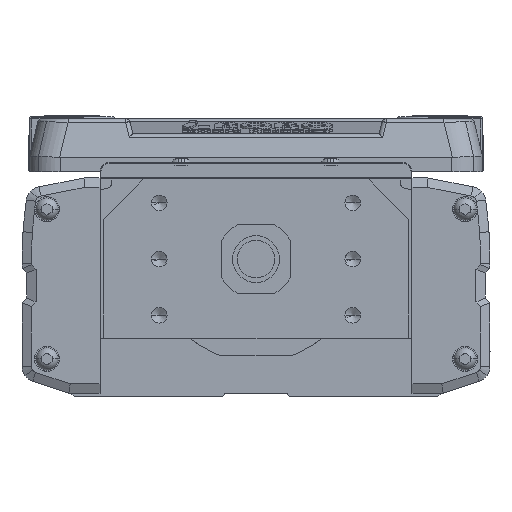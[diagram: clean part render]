
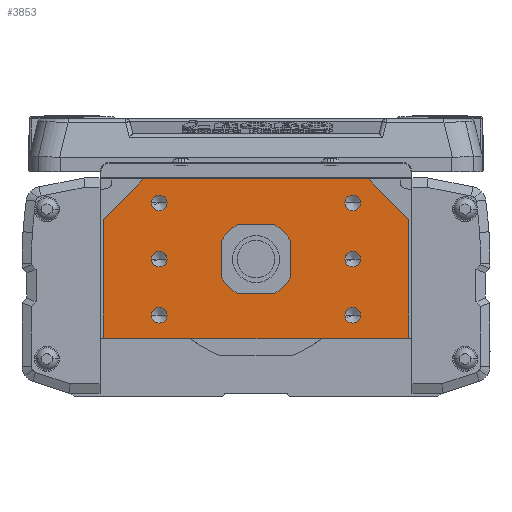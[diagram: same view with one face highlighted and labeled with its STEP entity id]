
A CAD part, left-side view. The second image highlights one B-rep face of the part: STEP entity #3853.
In plain terms, the highlighted planar face has unit normal (-1, 0, 0).
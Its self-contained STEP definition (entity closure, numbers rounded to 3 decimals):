
#3853=ADVANCED_FACE('',(#8742,#8743,#8744,#8745,#8746,#8747,#8748,#8749),#8750,.F.);
#8742=FACE_OUTER_BOUND('',#15345,.T.);
#8743=FACE_BOUND('',#15346,.T.);
#8744=FACE_BOUND('',#15347,.T.);
#8745=FACE_BOUND('',#15348,.T.);
#8746=FACE_BOUND('',#15349,.T.);
#8747=FACE_BOUND('',#15350,.T.);
#8748=FACE_BOUND('',#15351,.T.);
#8749=FACE_BOUND('',#15352,.T.);
#8750=PLANE('',#15353);
#15345=EDGE_LOOP('',(#27181,#27182,#27183,#27184,#27185,#27186,#27187,#27188));
#15346=EDGE_LOOP('',(#27189,#27190));
#15347=EDGE_LOOP('',(#27191,#27192));
#15348=EDGE_LOOP('',(#27193,#27194));
#15349=EDGE_LOOP('',(#27195,#27196));
#15350=EDGE_LOOP('',(#27197,#27198));
#15351=EDGE_LOOP('',(#27199,#27200));
#15352=EDGE_LOOP('',(#27201,#27202));
#15353=AXIS2_PLACEMENT_3D('',#27203,#27204,#27205);
#27181=ORIENTED_EDGE('',*,*,#38477,.F.);
#27182=ORIENTED_EDGE('',*,*,#38784,.F.);
#27183=ORIENTED_EDGE('',*,*,#40428,.F.);
#27184=ORIENTED_EDGE('',*,*,#39063,.F.);
#27185=ORIENTED_EDGE('',*,*,#40892,.F.);
#27186=ORIENTED_EDGE('',*,*,#40893,.F.);
#27187=ORIENTED_EDGE('',*,*,#40894,.F.);
#27188=ORIENTED_EDGE('',*,*,#40895,.F.);
#27189=ORIENTED_EDGE('',*,*,#40896,.T.);
#27190=ORIENTED_EDGE('',*,*,#40897,.T.);
#27191=ORIENTED_EDGE('',*,*,#40898,.T.);
#27192=ORIENTED_EDGE('',*,*,#38018,.T.);
#27193=ORIENTED_EDGE('',*,*,#40899,.T.);
#27194=ORIENTED_EDGE('',*,*,#40900,.T.);
#27195=ORIENTED_EDGE('',*,*,#40901,.T.);
#27196=ORIENTED_EDGE('',*,*,#40902,.T.);
#27197=ORIENTED_EDGE('',*,*,#40903,.T.);
#27198=ORIENTED_EDGE('',*,*,#39088,.T.);
#27199=ORIENTED_EDGE('',*,*,#40904,.T.);
#27200=ORIENTED_EDGE('',*,*,#38816,.T.);
#27201=ORIENTED_EDGE('',*,*,#40905,.F.);
#27202=ORIENTED_EDGE('',*,*,#40906,.F.);
#27203=CARTESIAN_POINT('',(0.,0.275,-2.548));
#27204=DIRECTION('',(1.0,0.,0.));
#27205=DIRECTION('',(0.,1.0,0.));
#38018=EDGE_CURVE('',#45750,#45748,#45751,.T.);
#38477=EDGE_CURVE('',#46549,#46550,#46551,.T.);
#38784=EDGE_CURVE('',#47054,#46549,#47056,.T.);
#38816=EDGE_CURVE('',#47102,#47100,#47103,.T.);
#39063=EDGE_CURVE('',#47490,#47492,#47493,.T.);
#39088=EDGE_CURVE('',#47530,#47528,#47531,.T.);
#40428=EDGE_CURVE('',#47492,#47054,#49583,.T.);
#40892=EDGE_CURVE('',#50237,#47490,#50238,.T.);
#40893=EDGE_CURVE('',#50239,#50237,#50240,.T.);
#40894=EDGE_CURVE('',#50241,#50239,#50242,.T.);
#40895=EDGE_CURVE('',#46550,#50241,#50243,.T.);
#40896=EDGE_CURVE('',#50244,#50245,#50246,.T.);
#40897=EDGE_CURVE('',#50245,#50244,#50247,.T.);
#40898=EDGE_CURVE('',#45748,#45750,#50248,.T.);
#40899=EDGE_CURVE('',#50249,#50250,#50251,.T.);
#40900=EDGE_CURVE('',#50250,#50249,#50252,.T.);
#40901=EDGE_CURVE('',#50253,#50254,#50255,.T.);
#40902=EDGE_CURVE('',#50254,#50253,#50256,.T.);
#40903=EDGE_CURVE('',#47528,#47530,#50257,.T.);
#40904=EDGE_CURVE('',#47100,#47102,#50258,.T.);
#40905=EDGE_CURVE('',#50259,#50260,#50261,.F.);
#40906=EDGE_CURVE('',#50260,#50259,#50262,.F.);
#45748=VERTEX_POINT('',#56510);
#45750=VERTEX_POINT('',#56513);
#45751=CIRCLE('',#56514,2.5);
#46549=VERTEX_POINT('',#57582);
#46550=VERTEX_POINT('',#57583);
#46551=LINE('',#57584,#57585);
#47054=VERTEX_POINT('',#58572);
#47056=LINE('',#58575,#58576);
#47100=VERTEX_POINT('',#58634);
#47102=VERTEX_POINT('',#58637);
#47103=CIRCLE('',#58638,2.5);
#47490=VERTEX_POINT('',#59157);
#47492=VERTEX_POINT('',#59160);
#47493=LINE('',#59161,#59162);
#47528=VERTEX_POINT('',#59207);
#47530=VERTEX_POINT('',#59210);
#47531=CIRCLE('',#59211,2.5);
#49583=LINE('',#61984,#61985);
#50237=VERTEX_POINT('',#62913);
#50238=LINE('',#62914,#62915);
#50239=VERTEX_POINT('',#62916);
#50240=LINE('',#62917,#62918);
#50241=VERTEX_POINT('',#62919);
#50242=LINE('',#62920,#62921);
#50243=LINE('',#62922,#62923);
#50244=VERTEX_POINT('',#62924);
#50245=VERTEX_POINT('',#62925);
#50246=CIRCLE('',#62926,2.5);
#50247=CIRCLE('',#62927,2.5);
#50248=CIRCLE('',#62928,2.5);
#50249=VERTEX_POINT('',#62929);
#50250=VERTEX_POINT('',#62930);
#50251=CIRCLE('',#62931,2.5);
#50252=CIRCLE('',#62932,2.5);
#50253=VERTEX_POINT('',#62933);
#50254=VERTEX_POINT('',#62934);
#50255=CIRCLE('',#62935,2.5);
#50256=CIRCLE('',#62936,2.5);
#50257=CIRCLE('',#62937,2.5);
#50258=CIRCLE('',#62938,2.5);
#50259=VERTEX_POINT('',#62939);
#50260=VERTEX_POINT('',#62940);
#50261=CIRCLE('',#62941,7.5);
#50262=CIRCLE('',#62942,7.5);
#56510=CARTESIAN_POINT('',(0.,-33.5,-18.));
#56513=CARTESIAN_POINT('',(0.,-28.5,-18.));
#56514=AXIS2_PLACEMENT_3D('',#68892,#68893,#68894);
#57582=CARTESIAN_POINT('',(0.,49.,12.7));
#57583=CARTESIAN_POINT('',(0.,36.,25.7));
#57584=CARTESIAN_POINT('',(0.,37.381,24.319));
#57585=VECTOR('',#69591,10.);
#58572=CARTESIAN_POINT('',(0.,49.,-25.));
#58575=CARTESIAN_POINT('',(0.,49.,-25.));
#58576=VECTOR('',#69967,10.0);
#58634=CARTESIAN_POINT('',(0.,-33.5,0.));
#58637=CARTESIAN_POINT('',(0.,-28.5,0.));
#58638=AXIS2_PLACEMENT_3D('',#70002,#70003,#70004);
#59157=CARTESIAN_POINT('',(0.,-48.5,-25.5));
#59160=CARTESIAN_POINT('',(0.,48.5,-25.5));
#59161=CARTESIAN_POINT('',(0.,0.,-25.5));
#59162=VECTOR('',#70313,10.0);
#59207=CARTESIAN_POINT('',(0.,33.5,0.));
#59210=CARTESIAN_POINT('',(0.,28.5,0.));
#59211=AXIS2_PLACEMENT_3D('',#70343,#70344,#70345);
#61984=CARTESIAN_POINT('',(0.,48.5,-25.5));
#61985=VECTOR('',#72187,10.0);
#62913=CARTESIAN_POINT('',(0.,-49.,-25.));
#62914=CARTESIAN_POINT('',(0.,-49.,-25.));
#62915=VECTOR('',#72746,10.0);
#62916=CARTESIAN_POINT('',(0.,-49.,12.7));
#62917=CARTESIAN_POINT('',(0.,-49.,-14.));
#62918=VECTOR('',#72747,10.0);
#62919=CARTESIAN_POINT('',(0.,-36.,25.7));
#62920=CARTESIAN_POINT('',(0.,-37.243,24.457));
#62921=VECTOR('',#72748,10.0);
#62922=CARTESIAN_POINT('',(0.,34.5,25.7));
#62923=VECTOR('',#72749,10.0);
#62924=CARTESIAN_POINT('',(0.,33.5,-18.));
#62925=CARTESIAN_POINT('',(0.,28.5,-18.));
#62926=AXIS2_PLACEMENT_3D('',#72750,#72751,#72752);
#62927=AXIS2_PLACEMENT_3D('',#72753,#72754,#72755);
#62928=AXIS2_PLACEMENT_3D('',#72756,#72757,#72758);
#62929=CARTESIAN_POINT('',(0.,33.5,18.));
#62930=CARTESIAN_POINT('',(0.,28.5,18.));
#62931=AXIS2_PLACEMENT_3D('',#72759,#72760,#72761);
#62932=AXIS2_PLACEMENT_3D('',#72762,#72763,#72764);
#62933=CARTESIAN_POINT('',(0.,-33.5,18.));
#62934=CARTESIAN_POINT('',(0.,-28.5,18.));
#62935=AXIS2_PLACEMENT_3D('',#72765,#72766,#72767);
#62936=AXIS2_PLACEMENT_3D('',#72768,#72769,#72770);
#62937=AXIS2_PLACEMENT_3D('',#72771,#72772,#72773);
#62938=AXIS2_PLACEMENT_3D('',#72774,#72775,#72776);
#62939=CARTESIAN_POINT('',(0.,7.5,0.));
#62940=CARTESIAN_POINT('',(0.,-7.5,0.));
#62941=AXIS2_PLACEMENT_3D('',#72777,#72778,#72779);
#62942=AXIS2_PLACEMENT_3D('',#72780,#72781,#72782);
#68892=CARTESIAN_POINT('',(0.,-31.,-18.));
#68893=DIRECTION('',(1.0,0.,0.));
#68894=DIRECTION('',(0.,-1.0,0.));
#69591=DIRECTION('',(0.,-0.707,0.707));
#69967=DIRECTION('',(0.,0.,1.0));
#70002=CARTESIAN_POINT('',(0.,-31.,0.));
#70003=DIRECTION('',(1.0,0.,0.));
#70004=DIRECTION('',(0.,-1.0,0.));
#70313=DIRECTION('',(0.,1.0,0.));
#70343=CARTESIAN_POINT('',(0.,31.,0.));
#70344=DIRECTION('',(1.0,0.,0.));
#70345=DIRECTION('',(0.,1.0,0.));
#72187=DIRECTION('',(0.,0.707,0.707));
#72746=DIRECTION('',(0.,0.707,-0.707));
#72747=DIRECTION('',(0.,0.,-1.0));
#72748=DIRECTION('',(0.,-0.707,-0.707));
#72749=DIRECTION('',(0.,-1.0,0.));
#72750=CARTESIAN_POINT('',(0.,31.,-18.));
#72751=DIRECTION('',(1.0,0.,0.));
#72752=DIRECTION('',(0.,1.0,0.));
#72753=CARTESIAN_POINT('',(0.,31.,-18.));
#72754=DIRECTION('',(1.0,0.,0.));
#72755=DIRECTION('',(0.,1.0,0.));
#72756=CARTESIAN_POINT('',(0.,-31.,-18.));
#72757=DIRECTION('',(1.0,0.,0.));
#72758=DIRECTION('',(0.,-1.0,0.));
#72759=CARTESIAN_POINT('',(0.,31.,18.));
#72760=DIRECTION('',(1.0,0.,0.));
#72761=DIRECTION('',(0.,1.0,0.));
#72762=CARTESIAN_POINT('',(0.,31.,18.));
#72763=DIRECTION('',(1.0,0.,0.));
#72764=DIRECTION('',(0.,1.0,0.));
#72765=CARTESIAN_POINT('',(0.,-31.,18.));
#72766=DIRECTION('',(1.0,0.,0.));
#72767=DIRECTION('',(0.,-1.0,0.));
#72768=CARTESIAN_POINT('',(0.,-31.,18.));
#72769=DIRECTION('',(1.0,0.,0.));
#72770=DIRECTION('',(0.,-1.0,0.));
#72771=CARTESIAN_POINT('',(0.,31.,0.));
#72772=DIRECTION('',(1.0,0.,0.));
#72773=DIRECTION('',(0.,1.0,0.));
#72774=CARTESIAN_POINT('',(0.,-31.,0.));
#72775=DIRECTION('',(1.0,0.,0.));
#72776=DIRECTION('',(0.,-1.0,0.));
#72777=CARTESIAN_POINT('',(0.,0.,0.));
#72778=DIRECTION('',(1.0,0.,0.));
#72779=DIRECTION('',(0.,-1.0,0.));
#72780=CARTESIAN_POINT('',(0.,0.,0.));
#72781=DIRECTION('',(1.0,0.,0.));
#72782=DIRECTION('',(0.,-1.0,0.));
